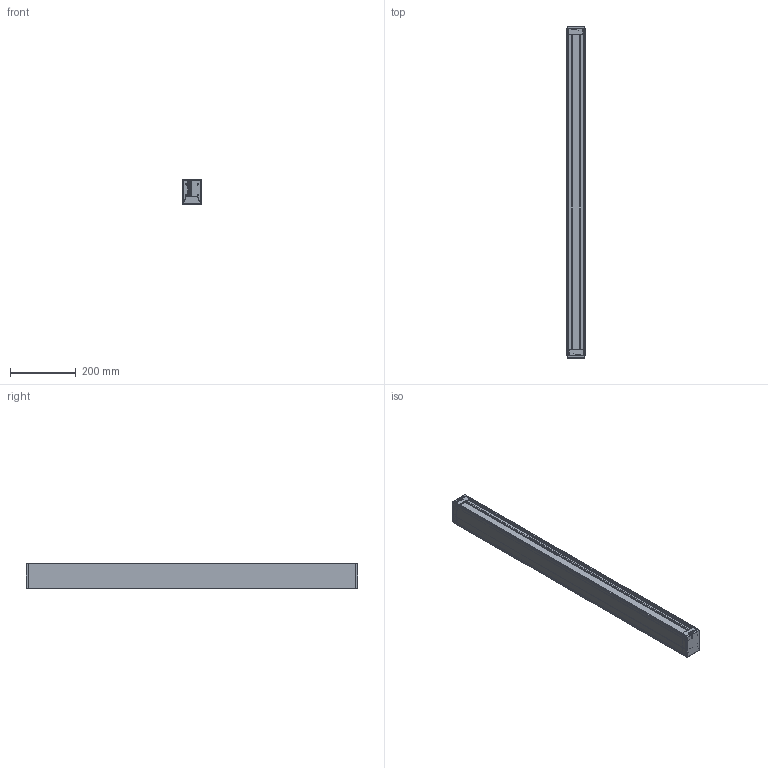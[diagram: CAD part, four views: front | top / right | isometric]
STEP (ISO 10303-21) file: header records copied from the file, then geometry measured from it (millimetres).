
FILE_DESCRIPTION(/* description */ (''),/* implementation_level */ '2;1');
FILE_NAME(/* name */ 'KISSL1~2',/* time_stamp */ '2026-04-27T16:02:41+02:00',/* author */ (''),/* organization */ (''),/* preprocessor_version */ 'ST-DEVELOPER v16.5',/* originating_system */ '',/* authorisation */ '');
FILE_SCHEMA (('AUTOMOTIVE_DESIGN'));
Products named in the file (1): Document
Bounding box: 55 x 1013.48 x 75 mm (x, y, z)
Volume: 446825.9 mm3; surface area: 875878.7 mm2
Topology: 7 solids, 7 shells, 2006 faces, 5654 edges, 3662 vertices
Faces by surface type: bspline 2006
Entity records: 162348 total; most frequent: CARTESIAN_POINT 91292, B_SPLINE_CURVE_WITH_KNOTS 14838, ORIENTED_EDGE 11284, PCURVE 11284, DEFINITIONAL_REPRESENTATION 11284, SURFACE_CURVE 5642, EDGE_CURVE 5642, VERTEX_POINT 3662
